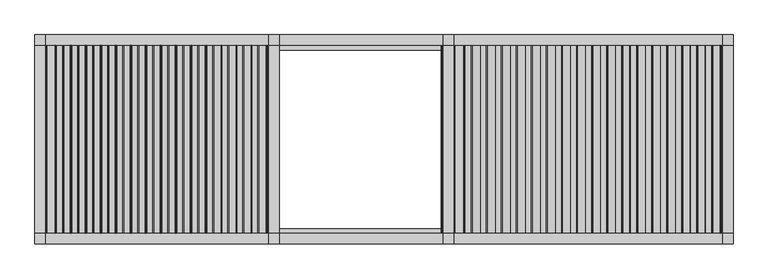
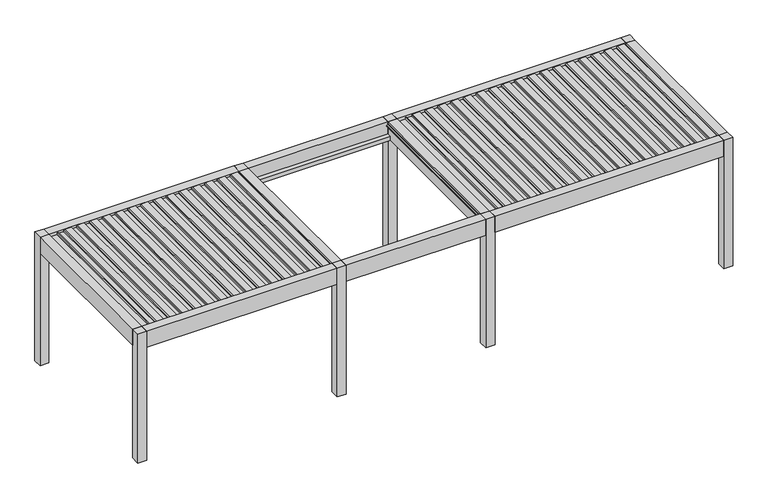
"""IFC4 building model written with IfcOpenShell, lengths in millimetres: proxy geometry, Renson_Amani_Patio_Cover : Renson_Amani_Patio_Cover."""

from ifc_helpers import new_model, si_unit, point, frame, frame_2d, origin, origin_with_axes, place, context, project, spatial, polyline, circle_curve, trimmed, segment, composite_curve, outline, extrude, source, transform, mapped, element, save


def generic_models_59356690(model_context):
    return source(origin(), model_context, "Body", "SweptSolid", [
        extrude(outline(composite_curve([segment(polyline([(2233.35, 7823.7338351), (2261.01198, 7826.1539448), (2262.3970364, 7854.9891952), (2281.8911096, 7851.5518641), (2276.6075693, 7741.5547493)]), True, "CONTINUOUS"), segment(trimmed(circle_curve(frame_2d((2261.6248435, 7742.2744212)), 15.0), [point((2276.6075693, 7741.5547493))], [point((2264.2295662, 7727.5023049))], False, "CARTESIAN"), True, "CONTINUOUS"), segment(polyline([(2264.2295662, 7727.5023049), (2245.0, 7724.1116136), (2245.0, 7636.3758376), (2262.0788237, 7633.3643801), (2261.3450182, 7618.0874097), (2233.35, 7615.6381629), (2233.35, 7823.7338351)]), True, "CONTINUOUS")], self_intersect=False)), frame((0.0, -1350.0, 0.0), z_axis=(0.0, 1.0, 0.0), x_axis=(0.0, 0.0, 1.0)), (0.0, 0.0, 1.0), 2700.0),
        extrude(outline(composite_curve([segment(polyline([(2233.35, 7608.7230303), (2261.01198, 7611.14314), (2262.3970364, 7639.9783904), (2281.8911096, 7636.5410594), (2276.6075693, 7526.5439445)]), True, "CONTINUOUS"), segment(trimmed(circle_curve(frame_2d((2261.6248435, 7527.2636164)), 15.0), [point((2276.6075693, 7526.5439445))], [point((2264.2295662, 7512.4915001))], False, "CARTESIAN"), True, "CONTINUOUS"), segment(polyline([(2264.2295662, 7512.4915001), (2245.0, 7509.1008088), (2245.0, 7421.3650328), (2262.0788237, 7418.3535754), (2261.3450182, 7403.0766049), (2233.35, 7400.6273582), (2233.35, 7608.7230303)]), True, "CONTINUOUS")], self_intersect=False)), frame((0.0, -1350.0, 0.0), z_axis=(0.0, 1.0, 0.0), x_axis=(0.0, 0.0, 1.0)), (0.0, 0.0, 1.0), 2700.0),
        extrude(outline(composite_curve([segment(polyline([(2233.35, 7393.7122255), (2261.01198, 7396.1323352), (2262.3970364, 7424.9675857), (2281.8911096, 7421.5302546), (2276.6075693, 7311.5331397)]), True, "CONTINUOUS"), segment(trimmed(circle_curve(frame_2d((2261.6248435, 7312.2528117)), 15.0), [point((2276.6075693, 7311.5331397))], [point((2264.2295662, 7297.4806954))], False, "CARTESIAN"), True, "CONTINUOUS"), segment(polyline([(2264.2295662, 7297.4806954), (2245.0, 7294.090004), (2245.0, 7206.354228), (2262.0788237, 7203.3427706), (2261.3450182, 7188.0658001), (2233.35, 7185.6165534), (2233.35, 7393.7122255)]), True, "CONTINUOUS")], self_intersect=False)), frame((0.0, -1350.0, 0.0), z_axis=(0.0, 1.0, 0.0), x_axis=(0.0, 0.0, 1.0)), (0.0, 0.0, 1.0), 2700.0),
        extrude(outline(composite_curve([segment(polyline([(2233.35, 7178.7014208), (2261.01198, 7181.1215304), (2262.3970364, 7209.9567809), (2281.8911096, 7206.5194498), (2276.6075693, 7096.5223349)]), True, "CONTINUOUS"), segment(trimmed(circle_curve(frame_2d((2261.6248435, 7097.2420069)), 15.0), [point((2276.6075693, 7096.5223349))], [point((2264.2295662, 7082.4698906))], False, "CARTESIAN"), True, "CONTINUOUS"), segment(polyline([(2264.2295662, 7082.4698906), (2245.0, 7079.0791992), (2245.0, 6991.3434232), (2262.0788237, 6988.3319658), (2261.3450182, 6973.0549953), (2233.35, 6970.6057486), (2233.35, 7178.7014208)]), True, "CONTINUOUS")], self_intersect=False)), frame((0.0, -1350.0, 0.0), z_axis=(0.0, 1.0, 0.0), x_axis=(0.0, 0.0, 1.0)), (0.0, 0.0, 1.0), 2700.0),
        extrude(outline(composite_curve([segment(polyline([(2233.35, 6963.690616), (2261.01198, 6966.1107256), (2262.3970364, 6994.9459761), (2281.8911096, 6991.508645), (2276.6075693, 6881.5115302)]), True, "CONTINUOUS"), segment(trimmed(circle_curve(frame_2d((2261.6248435, 6882.2312021)), 15.0), [point((2276.6075693, 6881.5115302))], [point((2264.2295662, 6867.4590858))], False, "CARTESIAN"), True, "CONTINUOUS"), segment(polyline([(2264.2295662, 6867.4590858), (2245.0, 6864.0683945), (2245.0, 6776.3326184), (2262.0788237, 6773.321161), (2261.3450182, 6758.0441905), (2233.35, 6755.5949438), (2233.35, 6963.690616)]), True, "CONTINUOUS")], self_intersect=False)), frame((0.0, -1350.0, 0.0), z_axis=(0.0, 1.0, 0.0), x_axis=(0.0, 0.0, 1.0)), (0.0, 0.0, 1.0), 2700.0),
        extrude(outline(composite_curve([segment(polyline([(2233.35, 6748.6798112), (2261.01198, 6751.0999209), (2262.3970364, 6779.9351713), (2281.8911096, 6776.4978402), (2276.6075693, 6666.5007254)]), True, "CONTINUOUS"), segment(trimmed(circle_curve(frame_2d((2261.6248435, 6667.2203973)), 15.0), [point((2276.6075693, 6666.5007254))], [point((2264.2295662, 6652.448281))], False, "CARTESIAN"), True, "CONTINUOUS"), segment(polyline([(2264.2295662, 6652.448281), (2245.0, 6649.0575897), (2245.0, 6561.3218136), (2262.0788237, 6558.3103562), (2261.3450182, 6543.0333858), (2233.35, 6540.584139), (2233.35, 6748.6798112)]), True, "CONTINUOUS")], self_intersect=False)), frame((0.0, -1350.0, 0.0), z_axis=(0.0, 1.0, 0.0), x_axis=(0.0, 0.0, 1.0)), (0.0, 0.0, 1.0), 2700.0),
        extrude(outline(composite_curve([segment(polyline([(2233.35, 6533.6690064), (2261.01198, 6536.0891161), (2262.3970364, 6564.9243665), (2281.8911096, 6561.4870355), (2276.6075693, 6451.4899206)]), True, "CONTINUOUS"), segment(trimmed(circle_curve(frame_2d((2261.6248435, 6452.2095925)), 15.0), [point((2276.6075693, 6451.4899206))], [point((2264.2295662, 6437.4374762))], False, "CARTESIAN"), True, "CONTINUOUS"), segment(polyline([(2264.2295662, 6437.4374762), (2245.0, 6434.0467849), (2245.0, 6346.3110089), (2262.0788237, 6343.2995515), (2261.3450182, 6328.022581), (2233.35, 6325.5733343), (2233.35, 6533.6690064)]), True, "CONTINUOUS")], self_intersect=False)), frame((0.0, -1350.0, 0.0), z_axis=(0.0, 1.0, 0.0), x_axis=(0.0, 0.0, 1.0)), (0.0, 0.0, 1.0), 2700.0),
        extrude(outline(composite_curve([segment(polyline([(2233.35, 6318.6582016), (2261.01198, 6321.0783113), (2262.3970364, 6349.9135617), (2281.8911096, 6346.4762307), (2276.6075693, 6236.4791158)]), True, "CONTINUOUS"), segment(trimmed(circle_curve(frame_2d((2261.6248435, 6237.1987878)), 15.0), [point((2276.6075693, 6236.4791158))], [point((2264.2295662, 6222.4266715))], False, "CARTESIAN"), True, "CONTINUOUS"), segment(polyline([(2264.2295662, 6222.4266715), (2245.0, 6219.0359801), (2245.0, 6131.3002041), (2262.0788237, 6128.2887467), (2261.3450182, 6113.0117762), (2233.35, 6110.5625295), (2233.35, 6318.6582016)]), True, "CONTINUOUS")], self_intersect=False)), frame((0.0, -1350.0, 0.0), z_axis=(0.0, 1.0, 0.0), x_axis=(0.0, 0.0, 1.0)), (0.0, 0.0, 1.0), 2700.0),
        extrude(outline(composite_curve([segment(polyline([(2233.35, 6103.6473968), (2261.01198, 6106.0675065), (2262.3970364, 6134.902757), (2281.8911096, 6131.4654259), (2276.6075693, 6021.468311)]), True, "CONTINUOUS"), segment(trimmed(circle_curve(frame_2d((2261.6248435, 6022.187983)), 15.0), [point((2276.6075693, 6021.468311))], [point((2264.2295662, 6007.4158667))], False, "CARTESIAN"), True, "CONTINUOUS"), segment(polyline([(2264.2295662, 6007.4158667), (2245.0, 6004.0251753), (2245.0, 5916.2893993), (2262.0788237, 5913.2779419), (2261.3450182, 5898.0009714), (2233.35, 5895.5517247), (2233.35, 6103.6473968)]), True, "CONTINUOUS")], self_intersect=False)), frame((0.0, -1350.0, 0.0), z_axis=(0.0, 1.0, 0.0), x_axis=(0.0, 0.0, 1.0)), (0.0, 0.0, 1.0), 2700.0),
        extrude(outline(composite_curve([segment(polyline([(2233.35, 5888.6365921), (2261.01198, 5891.0567017), (2262.3970364, 5919.8919522), (2281.8911096, 5916.4546211), (2276.6075693, 5806.4575063)]), True, "CONTINUOUS"), segment(trimmed(circle_curve(frame_2d((2261.6248435, 5807.1771782)), 15.0), [point((2276.6075693, 5806.4575063))], [point((2264.2295662, 5792.4050619))], False, "CARTESIAN"), True, "CONTINUOUS"), segment(polyline([(2264.2295662, 5792.4050619), (2245.0, 5789.0143706), (2245.0, 5701.2785945), (2262.0788237, 5698.2671371), (2261.3450182, 5682.9901666), (2233.35, 5680.5409199), (2233.35, 5888.6365921)]), True, "CONTINUOUS")], self_intersect=False)), frame((0.0, -1350.0, 0.0), z_axis=(0.0, 1.0, 0.0), x_axis=(0.0, 0.0, 1.0)), (0.0, 0.0, 1.0), 2700.0),
        extrude(outline(composite_curve([segment(polyline([(2233.35, 5673.6257873), (2261.01198, 5676.0458969), (2262.3970364, 5704.8811474), (2281.8911096, 5701.4438163), (2276.6075693, 5591.4467015)]), True, "CONTINUOUS"), segment(trimmed(circle_curve(frame_2d((2261.6248435, 5592.1663734)), 15.0), [point((2276.6075693, 5591.4467015))], [point((2264.2295662, 5577.3942571))], False, "CARTESIAN"), True, "CONTINUOUS"), segment(polyline([(2264.2295662, 5577.3942571), (2245.0, 5574.0035658), (2245.0, 5486.2677897), (2262.0788237, 5483.2563323), (2261.3450182, 5467.9793619), (2233.35, 5465.5301151), (2233.35, 5673.6257873)]), True, "CONTINUOUS")], self_intersect=False)), frame((0.0, -1350.0, 0.0), z_axis=(0.0, 1.0, 0.0), x_axis=(0.0, 0.0, 1.0)), (0.0, 0.0, 1.0), 2700.0),
        extrude(outline(composite_curve([segment(polyline([(2233.35, 5458.6149825), (2261.01198, 5461.0350922), (2262.3970364, 5489.8703426), (2281.8911096, 5486.4330115), (2276.6075693, 5376.4358967)]), True, "CONTINUOUS"), segment(trimmed(circle_curve(frame_2d((2261.6248435, 5377.1555686)), 15.0), [point((2276.6075693, 5376.4358967))], [point((2264.2295662, 5362.3834523))], False, "CARTESIAN"), True, "CONTINUOUS"), segment(polyline([(2264.2295662, 5362.3834523), (2245.0, 5358.992761), (2245.0, 5271.256985), (2262.0788237, 5268.2455275), (2261.3450182, 5252.9685571), (2233.35, 5250.5193103), (2233.35, 5458.6149825)]), True, "CONTINUOUS")], self_intersect=False)), frame((0.0, -1350.0, 0.0), z_axis=(0.0, 1.0, 0.0), x_axis=(0.0, 0.0, 1.0)), (0.0, 0.0, 1.0), 2700.0),
        extrude(outline(composite_curve([segment(polyline([(2233.35, 5243.6041777), (2261.01198, 5246.0242874), (2262.3970364, 5274.8595378), (2281.8911096, 5271.4222068), (2276.6075693, 5161.4250919)]), True, "CONTINUOUS"), segment(trimmed(circle_curve(frame_2d((2261.6248435, 5162.1447638)), 15.0), [point((2276.6075693, 5161.4250919))], [point((2264.2295662, 5147.3726475))], False, "CARTESIAN"), True, "CONTINUOUS"), segment(polyline([(2264.2295662, 5147.3726475), (2245.0, 5143.9819562), (2245.0, 5056.2461802), (2262.0788237, 5053.2347228), (2261.3450182, 5037.9577523), (2233.35, 5035.5085056), (2233.35, 5243.6041777)]), True, "CONTINUOUS")], self_intersect=False)), frame((0.0, -1350.0, 0.0), z_axis=(0.0, 1.0, 0.0), x_axis=(0.0, 0.0, 1.0)), (0.0, 0.0, 1.0), 2700.0),
        extrude(outline(composite_curve([segment(polyline([(2233.35, 5028.5933729), (2261.01198, 5031.0134826), (2262.3970364, 5059.8487331), (2281.8911096, 5056.411402), (2276.6075693, 4946.4142871)]), True, "CONTINUOUS"), segment(trimmed(circle_curve(frame_2d((2261.6248435, 4947.1339591)), 15.0), [point((2276.6075693, 4946.4142871))], [point((2264.2295662, 4932.3618428))], False, "CARTESIAN"), True, "CONTINUOUS"), segment(polyline([(2264.2295662, 4932.3618428), (2245.0, 4928.9711514), (2245.0, 4841.2353754), (2262.0788237, 4838.223918), (2261.3450182, 4822.9469475), (2233.35, 4820.4977008), (2233.35, 5028.5933729)]), True, "CONTINUOUS")], self_intersect=False)), frame((0.0, -1350.0, 0.0), z_axis=(0.0, 1.0, 0.0), x_axis=(0.0, 0.0, 1.0)), (0.0, 0.0, 1.0), 2700.0),
        extrude(outline(composite_curve([segment(polyline([(2233.35, 4813.5825682), (2261.01198, 4816.0026778), (2262.3970364, 4844.8379283), (2281.8911096, 4841.4005972), (2276.6075693, 4731.4034824)]), True, "CONTINUOUS"), segment(trimmed(circle_curve(frame_2d((2261.6248435, 4732.1231543)), 15.0), [point((2276.6075693, 4731.4034824))], [point((2264.2295662, 4717.351038))], False, "CARTESIAN"), True, "CONTINUOUS"), segment(polyline([(2264.2295662, 4717.351038), (2245.0, 4713.9603466), (2245.0, 4626.2245706), (2262.0788237, 4623.2131132), (2261.3450182, 4607.9361427), (2233.35, 4605.486896), (2233.35, 4813.5825682)]), True, "CONTINUOUS")], self_intersect=False)), frame((0.0, -1350.0, 0.0), z_axis=(0.0, 1.0, 0.0), x_axis=(0.0, 0.0, 1.0)), (0.0, 0.0, 1.0), 2700.0),
        extrude(outline(composite_curve([segment(polyline([(2233.35, 8038.7446399), (2261.01198, 8041.1647495), (2262.3970364, 8070.0), (2281.8911096, 8066.5626689), (2276.6075693, 7956.5655541)]), True, "CONTINUOUS"), segment(trimmed(circle_curve(frame_2d((2261.6248435, 7957.285226)), 15.0), [point((2276.6075693, 7956.5655541))], [point((2264.2295662, 7942.5131097))], False, "CARTESIAN"), True, "CONTINUOUS"), segment(polyline([(2264.2295662, 7942.5131097), (2245.0, 7939.1224184), (2245.0, 7851.3866423), (2262.0788237, 7848.3751849), (2261.3450182, 7833.0982144), (2233.35, 7830.6489677), (2233.35, 8038.7446399)]), True, "CONTINUOUS")], self_intersect=False)), frame((0.0, -1350.0, 0.0), z_axis=(0.0, 1.0, 0.0), x_axis=(0.0, 0.0, 1.0)), (0.0, 0.0, 1.0), 2700.0),
        extrude(outline(composite_curve([segment(polyline([(2233.35, 4598.5717634), (2261.01198, 4600.991873), (2262.3970364, 4629.8271235), (2281.8911096, 4626.3897924), (2276.6075693, 4516.3926776)]), True, "CONTINUOUS"), segment(trimmed(circle_curve(frame_2d((2261.6248435, 4517.1123495)), 15.0), [point((2276.6075693, 4516.3926776))], [point((2264.2295662, 4502.3402332))], False, "CARTESIAN"), True, "CONTINUOUS"), segment(polyline([(2264.2295662, 4502.3402332), (2245.0, 4498.9495419), (2245.0, 4411.2137658), (2262.0788237, 4408.2023084), (2261.3450182, 4392.9253379), (2233.35, 4390.4760912), (2233.35, 4598.5717634)]), True, "CONTINUOUS")], self_intersect=False)), frame((0.0, -1350.0, 0.0), z_axis=(0.0, 1.0, 0.0), x_axis=(0.0, 0.0, 1.0)), (0.0, 0.0, 1.0), 2700.0),
        extrude(outline(composite_curve([segment(polyline([(2233.35, 1323.7313417), (2261.01198, 1326.1514513), (2262.3970364, 1354.9867018), (2281.8911096, 1351.5493707), (2276.6075693, 1241.5522559)]), True, "CONTINUOUS"), segment(trimmed(circle_curve(frame_2d((2261.6248435, 1242.2719278)), 15.0), [point((2276.6075693, 1241.5522559))], [point((2264.2295662, 1227.4998115))], False, "CARTESIAN"), True, "CONTINUOUS"), segment(polyline([(2264.2295662, 1227.4998115), (2245.0, 1224.1091202), (2245.0, 1136.3733441), (2262.0788237, 1133.3618867), (2261.3450182, 1118.0849163), (2233.35, 1115.6356695), (2233.35, 1323.7313417)]), True, "CONTINUOUS")], self_intersect=False)), frame((0.0, -1350.0, 0.0), z_axis=(0.0, 1.0, 0.0), x_axis=(0.0, 0.0, 1.0)), (0.0, 0.0, 1.0), 2700.0),
        extrude(outline(composite_curve([segment(polyline([(2233.35, 1108.7180435), (2261.01198, 1111.1381532), (2262.3970364, 1139.9734036), (2281.8911096, 1136.5360725), (2276.6075693, 1026.5389577)]), True, "CONTINUOUS"), segment(trimmed(circle_curve(frame_2d((2261.6248435, 1027.2586296)), 15.0), [point((2276.6075693, 1026.5389577))], [point((2264.2295662, 1012.4865133))], False, "CARTESIAN"), True, "CONTINUOUS"), segment(polyline([(2264.2295662, 1012.4865133), (2245.0, 1009.095822), (2245.0, 921.360046), (2262.0788237, 918.3485885), (2261.3450182, 903.0716181), (2233.35, 900.6223713), (2233.35, 1108.7180435)]), True, "CONTINUOUS")], self_intersect=False)), frame((0.0, -1350.0, 0.0), z_axis=(0.0, 1.0, 0.0), x_axis=(0.0, 0.0, 1.0)), (0.0, 0.0, 1.0), 2700.0),
        extrude(outline(composite_curve([segment(polyline([(2233.35, 893.7047453), (2261.01198, 896.124855), (2262.3970364, 924.9601054), (2281.8911096, 921.5227743), (2276.6075693, 811.5256595)]), True, "CONTINUOUS"), segment(trimmed(circle_curve(frame_2d((2261.6248435, 812.2453314)), 15.0), [point((2276.6075693, 811.5256595))], [point((2264.2295662, 797.4732151))], False, "CARTESIAN"), True, "CONTINUOUS"), segment(polyline([(2264.2295662, 797.4732151), (2245.0, 794.0825238), (2245.0, 706.3467478), (2262.0788237, 703.3352903), (2261.3450182, 688.0583199), (2233.35, 685.6090731), (2233.35, 893.7047453)]), True, "CONTINUOUS")], self_intersect=False)), frame((0.0, -1350.0, 0.0), z_axis=(0.0, 1.0, 0.0), x_axis=(0.0, 0.0, 1.0)), (0.0, 0.0, 1.0), 2700.0),
        extrude(outline(composite_curve([segment(polyline([(2233.35, 678.6914471), (2261.01198, 681.1115568), (2262.3970364, 709.9468072), (2281.8911096, 706.5094762), (2276.6075693, 596.5123613)]), True, "CONTINUOUS"), segment(trimmed(circle_curve(frame_2d((2261.6248435, 597.2320332)), 15.0), [point((2276.6075693, 596.5123613))], [point((2264.2295662, 582.4599169))], False, "CARTESIAN"), True, "CONTINUOUS"), segment(polyline([(2264.2295662, 582.4599169), (2245.0, 579.0692256), (2245.0, 491.3334496), (2262.0788237, 488.3219922), (2261.3450182, 473.0450217), (2233.35, 470.595775), (2233.35, 678.6914471)]), True, "CONTINUOUS")], self_intersect=False)), frame((0.0, -1350.0, 0.0), z_axis=(0.0, 1.0, 0.0), x_axis=(0.0, 0.0, 1.0)), (0.0, 0.0, 1.0), 2700.0),
        extrude(outline(composite_curve([segment(polyline([(2233.35, 463.6781489), (2261.01198, 466.0982586), (2262.3970364, 494.933509), (2281.8911096, 491.496178), (2276.6075693, 381.4990631)]), True, "CONTINUOUS"), segment(trimmed(circle_curve(frame_2d((2261.6248435, 382.218735)), 15.0), [point((2276.6075693, 381.4990631))], [point((2264.2295662, 367.4466187))], False, "CARTESIAN"), True, "CONTINUOUS"), segment(polyline([(2264.2295662, 367.4466187), (2245.0, 364.0559274), (2245.0, 276.3201514), (2262.0788237, 273.308694), (2261.3450182, 258.0317235), (2233.35, 255.5824768), (2233.35, 463.6781489)]), True, "CONTINUOUS")], self_intersect=False)), frame((0.0, -1350.0, 0.0), z_axis=(0.0, 1.0, 0.0), x_axis=(0.0, 0.0, 1.0)), (0.0, 0.0, 1.0), 2700.0),
        extrude(outline(composite_curve([segment(polyline([(2233.35, 248.6648507), (2261.01198, 251.0849604), (2262.3970364, 279.9202108), (2281.8911096, 276.4828798), (2276.6075693, 166.4857649)]), True, "CONTINUOUS"), segment(trimmed(circle_curve(frame_2d((2261.6248435, 167.2054368)), 15.0), [point((2276.6075693, 166.4857649))], [point((2264.2295662, 152.4333206))], False, "CARTESIAN"), True, "CONTINUOUS"), segment(polyline([(2264.2295662, 152.4333206), (2245.0, 149.0426292), (2245.0, 61.3068532), (2262.0788237, 58.2953958), (2261.3450182, 43.0184253), (2233.35, 40.5691786), (2233.35, 248.6648507)]), True, "CONTINUOUS")], self_intersect=False)), frame((0.0, -1350.0, 0.0), z_axis=(0.0, 1.0, 0.0), x_axis=(0.0, 0.0, 1.0)), (0.0, 0.0, 1.0), 2700.0),
        extrude(outline(composite_curve([segment(polyline([(2233.35, 33.6515525), (2261.01198, 36.0716622), (2262.3970364, 64.9069127), (2281.8911096, 61.4695816), (2276.6075693, -48.5275333)]), True, "CONTINUOUS"), segment(trimmed(circle_curve(frame_2d((2261.6248435, -47.8078613)), 15.0), [point((2276.6075693, -48.5275333))], [point((2264.2295662, -62.5799776))], False, "CARTESIAN"), True, "CONTINUOUS"), segment(polyline([(2264.2295662, -62.5799776), (2245.0, -65.970669), (2245.0, -153.706445), (2262.0788237, -156.7179024), (2261.3450182, -171.9948729), (2233.35, -174.4441196), (2233.35, 33.6515525)]), True, "CONTINUOUS")], self_intersect=False)), frame((0.0, -1350.0, 0.0), z_axis=(0.0, 1.0, 0.0), x_axis=(0.0, 0.0, 1.0)), (0.0, 0.0, 1.0), 2700.0),
        extrude(outline(composite_curve([segment(polyline([(2233.35, -181.3617457), (2261.01198, -178.941636), (2262.3970364, -150.1063855), (2281.8911096, -153.5437166), (2276.6075693, -263.5408315)]), True, "CONTINUOUS"), segment(trimmed(circle_curve(frame_2d((2261.6248435, -262.8211595)), 15.0), [point((2276.6075693, -263.5408315))], [point((2264.2295662, -277.5932758))], False, "CARTESIAN"), True, "CONTINUOUS"), segment(polyline([(2264.2295662, -277.5932758), (2245.0, -280.9839672), (2245.0, -368.7197432), (2262.0788237, -371.7312006), (2261.3450182, -387.0081711), (2233.35, -389.4574178), (2233.35, -181.3617457)]), True, "CONTINUOUS")], self_intersect=False)), frame((0.0, -1350.0, 0.0), z_axis=(0.0, 1.0, 0.0), x_axis=(0.0, 0.0, 1.0)), (0.0, 0.0, 1.0), 2700.0),
        extrude(outline(composite_curve([segment(polyline([(2233.35, -396.3750439), (2261.01198, -393.9549342), (2262.3970364, -365.1196837), (2281.8911096, -368.5570148), (2276.6075693, -478.5541297)]), True, "CONTINUOUS"), segment(trimmed(circle_curve(frame_2d((2261.6248435, -477.8344577)), 15.0), [point((2276.6075693, -478.5541297))], [point((2264.2295662, -492.606574))], False, "CARTESIAN"), True, "CONTINUOUS"), segment(polyline([(2264.2295662, -492.606574), (2245.0, -495.9972654), (2245.0, -583.7330414), (2262.0788237, -586.7444988), (2261.3450182, -602.0214693), (2233.35, -604.470716), (2233.35, -396.3750439)]), True, "CONTINUOUS")], self_intersect=False)), frame((0.0, -1350.0, 0.0), z_axis=(0.0, 1.0, 0.0), x_axis=(0.0, 0.0, 1.0)), (0.0, 0.0, 1.0), 2700.0),
        extrude(outline(composite_curve([segment(polyline([(2233.35, -611.388342), (2261.01198, -608.9682324), (2262.3970364, -580.1329819), (2281.8911096, -583.570313), (2276.6075693, -693.5674279)]), True, "CONTINUOUS"), segment(trimmed(circle_curve(frame_2d((2261.6248435, -692.8477559)), 15.0), [point((2276.6075693, -693.5674279))], [point((2264.2295662, -707.6198722))], False, "CARTESIAN"), True, "CONTINUOUS"), segment(polyline([(2264.2295662, -707.6198722), (2245.0, -711.0105636), (2245.0, -798.7463396), (2262.0788237, -801.757797), (2261.3450182, -817.0347675), (2233.35, -819.4840142), (2233.35, -611.388342)]), True, "CONTINUOUS")], self_intersect=False)), frame((0.0, -1350.0, 0.0), z_axis=(0.0, 1.0, 0.0), x_axis=(0.0, 0.0, 1.0)), (0.0, 0.0, 1.0), 2700.0),
        extrude(outline(composite_curve([segment(polyline([(2233.35, -826.4016402), (2261.01198, -823.9815306), (2262.3970364, -795.1462801), (2281.8911096, -798.5836112), (2276.6075693, -908.580726)]), True, "CONTINUOUS"), segment(trimmed(circle_curve(frame_2d((2261.6248435, -907.8610541)), 15.0), [point((2276.6075693, -908.580726))], [point((2264.2295662, -922.6331704))], False, "CARTESIAN"), True, "CONTINUOUS"), segment(polyline([(2264.2295662, -922.6331704), (2245.0, -926.0238618), (2245.0, -1013.7596378), (2262.0788237, -1016.7710952), (2261.3450182, -1032.0480657), (2233.35, -1034.4973124), (2233.35, -826.4016402)]), True, "CONTINUOUS")], self_intersect=False)), frame((0.0, -1350.0, 0.0), z_axis=(0.0, 1.0, 0.0), x_axis=(0.0, 0.0, 1.0)), (0.0, 0.0, 1.0), 2700.0),
        extrude(outline(composite_curve([segment(polyline([(2233.35, -1041.4149384), (2261.01198, -1038.9948288), (2262.3970364, -1010.1595783), (2281.8911096, -1013.5969094), (2276.6075693, -1123.5940242)]), True, "CONTINUOUS"), segment(trimmed(circle_curve(frame_2d((2261.6248435, -1122.8743523)), 15.0), [point((2276.6075693, -1123.5940242))], [point((2264.2295662, -1137.6464686))], False, "CARTESIAN"), True, "CONTINUOUS"), segment(polyline([(2264.2295662, -1137.6464686), (2245.0, -1141.0371599), (2245.0, -1228.772936), (2262.0788237, -1231.7843934), (2261.3450182, -1247.0613639), (2233.35, -1249.5106106), (2233.35, -1041.4149384)]), True, "CONTINUOUS")], self_intersect=False)), frame((0.0, -1350.0, 0.0), z_axis=(0.0, 1.0, 0.0), x_axis=(0.0, 0.0, 1.0)), (0.0, 0.0, 1.0), 2700.0),
        extrude(outline(composite_curve([segment(polyline([(2233.35, 1538.7446399), (2261.01198, 1541.1647495), (2262.3970364, 1570.0), (2281.8911096, 1566.5626689), (2276.6075693, 1456.5655541)]), True, "CONTINUOUS"), segment(trimmed(circle_curve(frame_2d((2261.6248435, 1457.285226)), 15.0), [point((2276.6075693, 1456.5655541))], [point((2264.2295662, 1442.5131097))], False, "CARTESIAN"), True, "CONTINUOUS"), segment(polyline([(2264.2295662, 1442.5131097), (2245.0, 1439.1224184), (2245.0, 1351.3866423), (2262.0788237, 1348.3751849), (2261.3450182, 1333.0982144), (2233.35, 1330.6489677), (2233.35, 1538.7446399)]), True, "CONTINUOUS")], self_intersect=False)), frame((0.0, -1350.0, 0.0), z_axis=(0.0, 1.0, 0.0), x_axis=(0.0, 0.0, 1.0)), (0.0, 0.0, 1.0), 2700.0),
        extrude(outline(composite_curve([segment(polyline([(2233.35, -1256.4282366), (2261.01198, -1254.008127), (2262.3970364, -1225.1728765), (2281.8911096, -1228.6102076), (2276.6075693, -1338.6073224)]), True, "CONTINUOUS"), segment(trimmed(circle_curve(frame_2d((2261.6248435, -1337.8876505)), 15.0), [point((2276.6075693, -1338.6073224))], [point((2264.2295662, -1352.6597668))], False, "CARTESIAN"), True, "CONTINUOUS"), segment(polyline([(2264.2295662, -1352.6597668), (2245.0, -1356.0504581), (2245.0, -1443.7862342), (2262.0788237, -1446.7976916), (2261.3450182, -1462.0746621), (2233.35, -1464.5239088), (2233.35, -1256.4282366)]), True, "CONTINUOUS")], self_intersect=False)), frame((0.0, -1350.0, 0.0), z_axis=(0.0, 1.0, 0.0), x_axis=(0.0, 0.0, 1.0)), (0.0, 0.0, 1.0), 2700.0),
        extrude(outline(polyline([(8250.0, -1350.0), (8250.0, -1500.0), (8100.0, -1500.0), (8100.0, -1350.0), (8250.0, -1350.0)])), origin_with_axes(), (0.0, 0.0, 1.0), 2285.0),
        extrude(outline(polyline([(8250.0, 1500.0), (8250.0, 1350.0), (8100.0, 1350.0), (8100.0, 1500.0), (8250.0, 1500.0)])), origin_with_axes(), (0.0, 0.0, 1.0), 2285.0),
        extrude(outline(polyline([(4250.0, 1500.0), (4250.0, 1350.0), (4100.0, 1350.0), (4100.0, 1500.0), (4250.0, 1500.0)])), origin_with_axes(), (0.0, 0.0, 1.0), 2285.0),
        extrude(outline(polyline([(4250.0, -1350.0), (4250.0, -1500.0), (4100.0, -1500.0), (4100.0, -1350.0), (4250.0, -1350.0)])), origin_with_axes(), (0.0, 0.0, 1.0), 2285.0),
        extrude(outline(polyline([(1750.0, -1350.0), (1750.0, -1500.0), (1600.0, -1500.0), (1600.0, -1350.0), (1750.0, -1350.0)])), origin_with_axes(), (0.0, 0.0, 1.0), 2285.0),
        extrude(outline(polyline([(1750.0, 1500.0), (1750.0, 1350.0), (1600.0, 1350.0), (1600.0, 1500.0), (1750.0, 1500.0)])), origin_with_axes(), (0.0, 0.0, 1.0), 2285.0),
        extrude(outline(polyline([(-1600.0, 1350.0), (-1750.0, 1350.0), (-1750.0, 1500.0), (-1600.0, 1500.0), (-1600.0, 1350.0)])), origin_with_axes(), (0.0, 0.0, 1.0), 2285.0),
        extrude(outline(polyline([(-1600.0, -1350.0), (-1600.0, -1500.0), (-1750.0, -1500.0), (-1750.0, -1350.0), (-1600.0, -1350.0)])), origin_with_axes(), (0.0, 0.0, 1.0), 2285.0),
        extrude(outline(polyline([(2216.6559373, 4250.0), (2216.6559373, 4385.0), (2230.6555802, 4388.7512887), (2230.6555802, 4270.4059055), (2246.400763, 4255.0), (2254.2449277, 4255.0), (2254.6823598, 4250.0), (2216.6559373, 4250.0)])), frame((0.0, -1350.0, 0.0), z_axis=(0.0, 1.0, 0.0), x_axis=(0.0, 0.0, 1.0)), (0.0, 0.0, 1.0), 2700.0),
        extrude(outline(polyline([(-1350.0, 2285.0), (-1350.0, 2072.0), (-1280.0000001, 2072.0), (-1280.0000001, 2000.0), (-1500.0, 2000.0), (-1500.0, 2285.0), (-1350.0, 2285.0)])), frame((4250.0, 0.0, 0.0), z_axis=(1.0, 0.0, 0.0), x_axis=(0.0, 1.0, 0.0)), (0.0, 0.0, 1.0), 3850.0),
        extrude(outline(polyline([(1500.0, 2000.0), (1280.0000001, 2000.0), (1280.0000001, 2072.0), (1350.0, 2072.0), (1350.0, 2285.0), (1500.0, 2285.0), (1500.0, 2000.0)])), frame((4250.0, 0.0, 0.0), z_axis=(1.0, 0.0, 0.0), x_axis=(0.0, 1.0, 0.0)), (0.0, 0.0, 1.0), 3850.0),
        extrude(outline(polyline([(2285.0, 8250.0), (2285.0, 8100.0), (2254.6823598, 8100.0), (2254.2449277, 8095.0), (2246.400763, 8095.0), (2230.6555802, 8079.2544156), (2230.6555802, 8069.9090324), (2216.6559373, 8073.6603211), (2216.6559373, 8100.0), (2000.0, 8100.0), (2000.0, 8250.0), (2285.0, 8250.0)])), frame((0.0, -1350.0, 0.0), z_axis=(0.0, 1.0, 0.0), x_axis=(0.0, 0.0, 1.0)), (0.0, 0.0, 1.0), 2700.0),
        extrude(outline(polyline([(-1350.0, 2285.0), (-1350.0, 2072.0), (-1280.0000001, 2072.0), (-1280.0000001, 2000.0), (-1500.0, 2000.0), (-1500.0, 2285.0), (-1350.0, 2285.0)])), frame((1750.0, 0.0, 0.0), z_axis=(1.0, 0.0, 0.0), x_axis=(0.0, 1.0, 0.0)), (0.0, 0.0, 1.0), 2350.0),
        extrude(outline(polyline([(1500.0, 2000.0), (1280.0000001, 2000.0), (1280.0000001, 2072.0), (1350.0, 2072.0), (1350.0, 2285.0), (1500.0, 2285.0), (1500.0, 2000.0)])), frame((1750.0, 0.0, 0.0), z_axis=(1.0, 0.0, 0.0), x_axis=(0.0, 1.0, 0.0)), (0.0, 0.0, 1.0), 2350.0),
        extrude(outline(polyline([(2285.0, 4250.0), (2285.0, 4100.0), (2254.6823598, 4100.0), (2254.2449277, 4095.0), (2246.400763, 4095.0), (2230.6555802, 4079.2544156), (2230.6555802, 4069.9090324), (2216.6559373, 4073.6603211), (2216.6559373, 4100.0), (2000.0, 4100.0), (2000.0, 4250.0), (2285.0, 4250.0)])), frame((0.0, -1350.0, 0.0), z_axis=(0.0, 1.0, 0.0), x_axis=(0.0, 0.0, 1.0)), (0.0, 0.0, 1.0), 2700.0),
        extrude(outline(polyline([(2216.6559373, -1600.0), (2216.6559373, -1470.0), (2230.6555802, -1466.2487113), (2230.6555802, -1579.5940945), (2246.400763, -1595.0), (2254.2449277, -1595.0), (2254.6823598, -1600.0), (2216.6559373, -1600.0)])), frame((0.0, -1350.0, 0.0), z_axis=(0.0, 1.0, 0.0), x_axis=(0.0, 0.0, 1.0)), (0.0, 0.0, 1.0), 2700.0),
        extrude(outline(polyline([(-1600.0, -1350.0), (-1750.0, -1350.0), (-1750.0, 1350.0), (-1600.0, 1350.0), (-1600.0, -1350.0)])), frame((0.0, 0.0, 2000.0), z_axis=(0.0, 0.0, 1.0), x_axis=(1.0, 0.0, 0.0)), (0.0, 0.0, 1.0), 285.0),
        extrude(outline(polyline([(2285.0, 1750.0), (2285.0, 1600.0), (2254.6904658, 1600.0), (2254.2449277, 1595.0), (2246.400763, 1595.0), (2230.6555802, 1579.2544156), (2230.6555802, 1569.9090324), (2216.6559373, 1573.6603211), (2216.6559373, 1600.0), (2000.0, 1600.0), (2000.0, 1750.0), (2285.0, 1750.0)])), frame((0.0, -1350.0, 0.0), z_axis=(0.0, 1.0, 0.0), x_axis=(0.0, 0.0, 1.0)), (0.0, 0.0, 1.0), 2700.0),
        extrude(outline(polyline([(-1350.0, 2285.0), (-1350.0, 2072.0), (-1280.0000001, 2072.0), (-1280.0000001, 2000.0), (-1500.0, 2000.0), (-1500.0, 2285.0), (-1350.0, 2285.0)])), frame((-1600.0, 0.0, 0.0), z_axis=(1.0, 0.0, 0.0), x_axis=(0.0, 1.0, 0.0)), (0.0, 0.0, 1.0), 3200.0),
        extrude(outline(polyline([(1500.0, 2000.0), (1280.0000001, 2000.0), (1280.0000001, 2072.0), (1350.0, 2072.0), (1350.0, 2285.0), (1500.0, 2285.0), (1500.0, 2000.0)])), frame((-1600.0, 0.0, 0.0), z_axis=(1.0, 0.0, 0.0), x_axis=(0.0, 1.0, 0.0)), (0.0, 0.0, 1.0), 3200.0),
    ])


if __name__ == "__main__":
    model = new_model("IFC4")
    model_context = context("Model", 3, world=origin())
    ifc_project = project(units=[si_unit("LENGTHUNIT", "METRE", prefix="MILLI")], contexts=[model_context])
    site = spatial("IfcSite", under=ifc_project)
    building = spatial("IfcBuilding", under=site)
    placement = place(None, origin())
    generic_models_shape = generic_models_59356690(model_context)
    element("IfcBuildingElementProxy", 1, Name="Renson_Amani_Patio_Cover : Renson_Amani_Patio_Cover", ObjectType="Renson_Amani_Patio_Cover : Renson_Amani_Patio_Cover", at=placement, inside=building, context=model_context, shape_type="MappedRepresentation", body=[
        mapped(generic_models_shape, transform((0.0, 0.0, 0.0), x_axis=(1.0, 0.0, 0.0), y_axis=(0.0, 1.0, 0.0), z_axis=(0.0, 0.0, 1.0))),
    ])
    save(model, "model.ifc")
